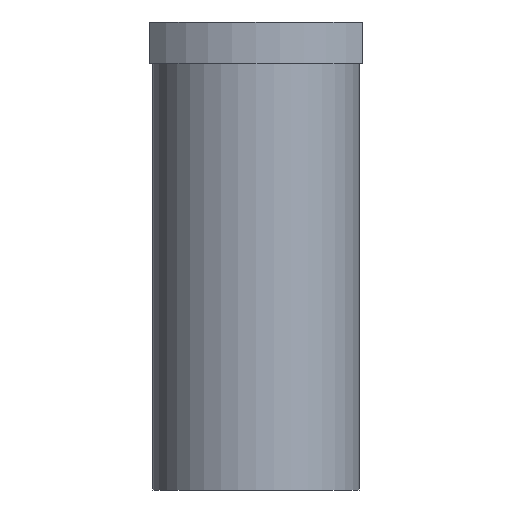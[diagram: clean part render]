
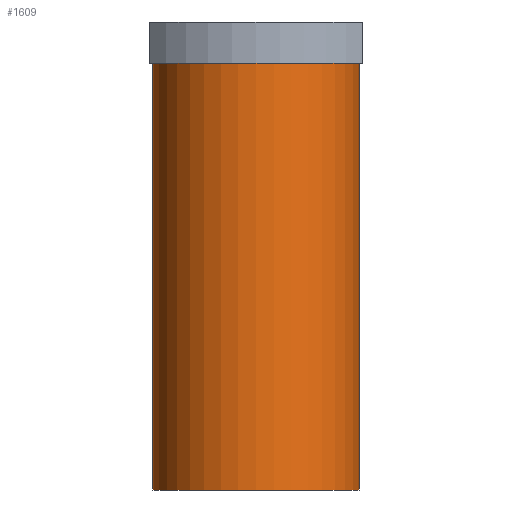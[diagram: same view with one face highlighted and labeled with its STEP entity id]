
A CAD part, front view. The second image highlights one B-rep face of the part: STEP entity #1609.
In plain terms, the highlighted cylindrical face has radius 75 mm (diameter 150 mm), a full revolution.
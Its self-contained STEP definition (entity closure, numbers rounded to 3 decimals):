
#21 = EDGE_CURVE('',#22,#24,#26,.T.);
#22 = VERTEX_POINT('',#23);
#23 = CARTESIAN_POINT('',(0.,75.,-340.));
#24 = VERTEX_POINT('',#25);
#25 = CARTESIAN_POINT('',(-75.,0.,-340.));
#26 = SURFACE_CURVE('',#27,(#32,#44),.PCURVE_S1.);
#27 = CIRCLE('',#28,75.);
#28 = AXIS2_PLACEMENT_3D('',#29,#30,#31);
#29 = CARTESIAN_POINT('',(0.,0.,-340.));
#30 = DIRECTION('',(0.,0.,-1.));
#31 = DIRECTION('',(0.,1.,0.));
#32 = PCURVE('',#33,#38);
#33 = PLANE('',#34);
#34 = AXIS2_PLACEMENT_3D('',#35,#36,#37);
#35 = CARTESIAN_POINT('',(0.,0.,-340.));
#36 = DIRECTION('',(0.,0.,-1.));
#37 = DIRECTION('',(-1.,0.,0.));
#38 = DEFINITIONAL_REPRESENTATION('',(#39),#43);
#39 = CIRCLE('',#40,75.);
#40 = AXIS2_PLACEMENT_2D('',#41,#42);
#41 = CARTESIAN_POINT('',(0.,0.));
#42 = DIRECTION('',(0.,1.));
#43 = ( GEOMETRIC_REPRESENTATION_CONTEXT(2) 
PARAMETRIC_REPRESENTATION_CONTEXT() REPRESENTATION_CONTEXT('2D SPACE',''
  ) );
#44 = PCURVE('',#45,#50);
#45 = CYLINDRICAL_SURFACE('',#46,75.);
#46 = AXIS2_PLACEMENT_3D('',#47,#48,#49);
#47 = CARTESIAN_POINT('',(0.,0.,0.));
#48 = DIRECTION('',(0.,0.,-1.));
#49 = DIRECTION('',(1.,0.,0.));
#50 = DEFINITIONAL_REPRESENTATION('',(#51),#55);
#51 = LINE('',#52,#53);
#52 = CARTESIAN_POINT('',(4.712,340.));
#53 = VECTOR('',#54,1.);
#54 = DIRECTION('',(1.,0.));
#55 = ( GEOMETRIC_REPRESENTATION_CONTEXT(2) 
PARAMETRIC_REPRESENTATION_CONTEXT() REPRESENTATION_CONTEXT('2D SPACE',''
  ) );
#57 = EDGE_CURVE('',#24,#22,#58,.T.);
#58 = SURFACE_CURVE('',#59,(#64,#71),.PCURVE_S1.);
#59 = CIRCLE('',#60,75.);
#60 = AXIS2_PLACEMENT_3D('',#61,#62,#63);
#61 = CARTESIAN_POINT('',(0.,0.,-340.));
#62 = DIRECTION('',(0.,0.,-1.));
#63 = DIRECTION('',(0.,1.,0.));
#64 = PCURVE('',#33,#65);
#65 = DEFINITIONAL_REPRESENTATION('',(#66),#70);
#66 = CIRCLE('',#67,75.);
#67 = AXIS2_PLACEMENT_2D('',#68,#69);
#68 = CARTESIAN_POINT('',(0.,0.));
#69 = DIRECTION('',(0.,1.));
#70 = ( GEOMETRIC_REPRESENTATION_CONTEXT(2) 
PARAMETRIC_REPRESENTATION_CONTEXT() REPRESENTATION_CONTEXT('2D SPACE',''
  ) );
#71 = PCURVE('',#45,#72);
#72 = DEFINITIONAL_REPRESENTATION('',(#73),#77);
#73 = LINE('',#74,#75);
#74 = CARTESIAN_POINT('',(-1.571,340.));
#75 = VECTOR('',#76,1.);
#76 = DIRECTION('',(1.,0.));
#77 = ( GEOMETRIC_REPRESENTATION_CONTEXT(2) 
PARAMETRIC_REPRESENTATION_CONTEXT() REPRESENTATION_CONTEXT('2D SPACE',''
  ) );
#934 = PLANE('',#935);
#935 = AXIS2_PLACEMENT_3D('',#936,#937,#938);
#936 = CARTESIAN_POINT('',(0.,0.,-30.)
  );
#937 = DIRECTION('',(0.,0.,1.));
#938 = DIRECTION('',(1.,0.,-0.));
#1609 = ADVANCED_FACE('',(#1610),#45,.T.);
#1610 = FACE_BOUND('',#1611,.T.);
#1611 = EDGE_LOOP('',(#1612,#1613,#1614,#1637,#1659));
#1612 = ORIENTED_EDGE('',*,*,#21,.F.);
#1613 = ORIENTED_EDGE('',*,*,#57,.F.);
#1614 = ORIENTED_EDGE('',*,*,#1615,.T.);
#1615 = EDGE_CURVE('',#24,#1616,#1618,.T.);
#1616 = VERTEX_POINT('',#1617);
#1617 = CARTESIAN_POINT('',(-75.,0.,-30.));
#1618 = SEAM_CURVE('',#1619,(#1623,#1630),.PCURVE_S1.);
#1619 = LINE('',#1620,#1621);
#1620 = CARTESIAN_POINT('',(-75.,0.,0.)
  );
#1621 = VECTOR('',#1622,1.);
#1622 = DIRECTION('',(0.,0.,1.));
#1623 = PCURVE('',#45,#1624);
#1624 = DEFINITIONAL_REPRESENTATION('',(#1625),#1629);
#1625 = LINE('',#1626,#1627);
#1626 = CARTESIAN_POINT('',(3.142,0.));
#1627 = VECTOR('',#1628,1.);
#1628 = DIRECTION('',(0.,-1.));
#1629 = ( GEOMETRIC_REPRESENTATION_CONTEXT(2) 
PARAMETRIC_REPRESENTATION_CONTEXT() REPRESENTATION_CONTEXT('2D SPACE',''
  ) );
#1630 = PCURVE('',#45,#1631);
#1631 = DEFINITIONAL_REPRESENTATION('',(#1632),#1636);
#1632 = LINE('',#1633,#1634);
#1633 = CARTESIAN_POINT('',(9.425,0.));
#1634 = VECTOR('',#1635,1.);
#1635 = DIRECTION('',(0.,-1.));
#1636 = ( GEOMETRIC_REPRESENTATION_CONTEXT(2) 
PARAMETRIC_REPRESENTATION_CONTEXT() REPRESENTATION_CONTEXT('2D SPACE',''
  ) );
#1637 = ORIENTED_EDGE('',*,*,#1638,.F.);
#1638 = EDGE_CURVE('',#1616,#1616,#1639,.T.);
#1639 = SURFACE_CURVE('',#1640,(#1645,#1652),.PCURVE_S1.);
#1640 = CIRCLE('',#1641,75.);
#1641 = AXIS2_PLACEMENT_3D('',#1642,#1643,#1644);
#1642 = CARTESIAN_POINT('',(0.,0.,-30.));
#1643 = DIRECTION('',(0.,0.,1.));
#1644 = DIRECTION('',(1.,0.,-0.));
#1645 = PCURVE('',#45,#1646);
#1646 = DEFINITIONAL_REPRESENTATION('',(#1647),#1651);
#1647 = LINE('',#1648,#1649);
#1648 = CARTESIAN_POINT('',(12.566,30.));
#1649 = VECTOR('',#1650,1.);
#1650 = DIRECTION('',(-1.,0.));
#1651 = ( GEOMETRIC_REPRESENTATION_CONTEXT(2) 
PARAMETRIC_REPRESENTATION_CONTEXT() REPRESENTATION_CONTEXT('2D SPACE',''
  ) );
#1652 = PCURVE('',#934,#1653);
#1653 = DEFINITIONAL_REPRESENTATION('',(#1654),#1658);
#1654 = CIRCLE('',#1655,75.);
#1655 = AXIS2_PLACEMENT_2D('',#1656,#1657);
#1656 = CARTESIAN_POINT('',(0.,0.));
#1657 = DIRECTION('',(1.,0.));
#1658 = ( GEOMETRIC_REPRESENTATION_CONTEXT(2) 
PARAMETRIC_REPRESENTATION_CONTEXT() REPRESENTATION_CONTEXT('2D SPACE',''
  ) );
#1659 = ORIENTED_EDGE('',*,*,#1615,.F.);
